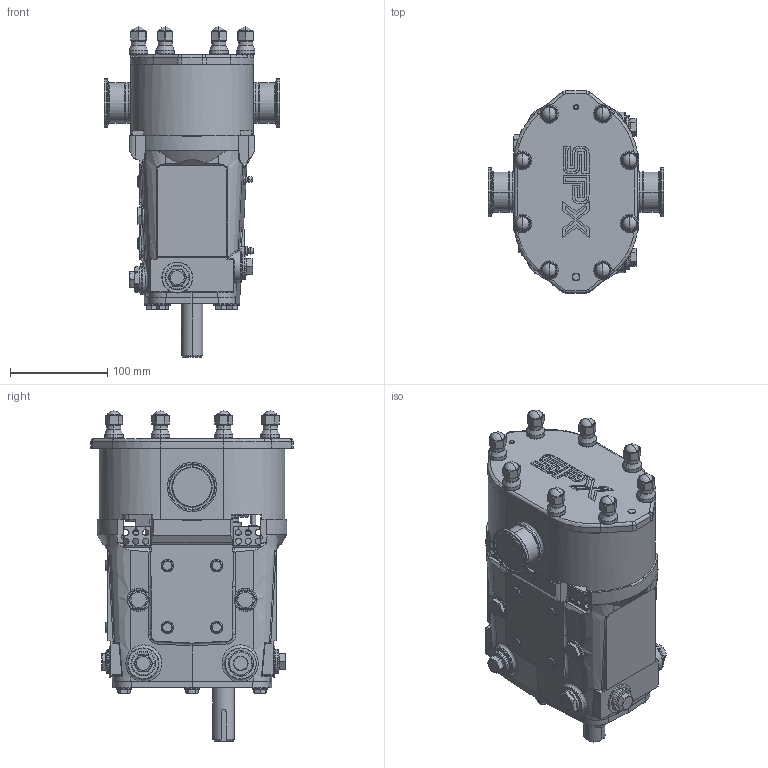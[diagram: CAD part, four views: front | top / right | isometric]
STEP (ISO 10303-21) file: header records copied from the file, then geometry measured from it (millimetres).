
FILE_DESCRIPTION (( 'STEP AP214' ), '1' );
FILE_NAME ('Model 018 Universal Series Side Mount RH 1.STEP', '2017-11-17T21:44:31', ( '' ), ( '' ), 'SwSTEP 2.0', 'SolidWorks 2014', '' );
FILE_SCHEMA (( 'AUTOMOTIVE_DESIGN' ));
Length unit declared in the file: inch
Products named in the file (1): Model 018 Universal Series Side Mount RH 1
Bounding box: 180.17 x 207.77 x 339.18 mm (x, y, z)
Volume: 4594214.5 mm3; surface area: 291585.9 mm2
Topology: 3 solids, 3 shells, 1967 faces, 5016 edges, 3159 vertices
Faces by surface type: plane 752, cylinder 587, torus 287, cone 236, bspline 87, sphere 18
Entity records: 65242 total; most frequent: CARTESIAN_POINT 17813, DIRECTION 10040, ORIENTED_EDGE 10016, EDGE_CURVE 5008, AXIS2_PLACEMENT_3D 3904, VERTEX_POINT 3159, LINE 2232, VECTOR 2232
